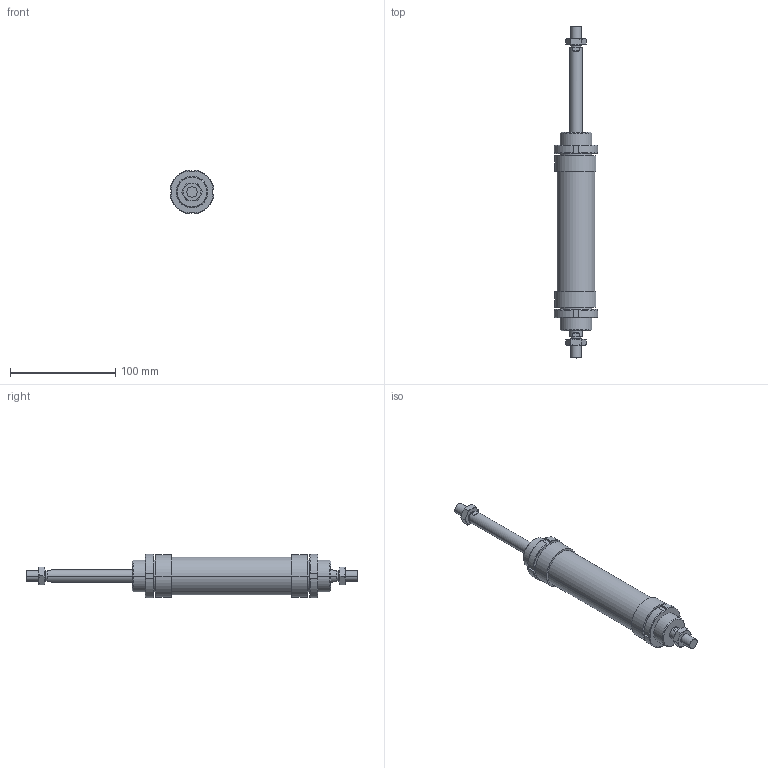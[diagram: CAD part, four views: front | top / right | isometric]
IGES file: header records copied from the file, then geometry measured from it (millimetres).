
Global section: file name: No Iges File Name specified; native system: AutoDesk Inventor R6.0; preprocessor: AutoDesk Inventor Iges Exporter R6.0; author: No Author specified; organization: No Organization specified; date: 20030403.072624; units: millimetre
Bounding box: 41.7 x 315 x 41.7 mm (x, y, z)
Volume: 209421.6 mm3; surface area: 50913.8 mm2
Topology: 6 solids, 6 shells, 182 faces, 424 edges, 264 vertices
Faces by surface type: plane 66, cone 52, bspline 30, cylinder 28, revolution 6
